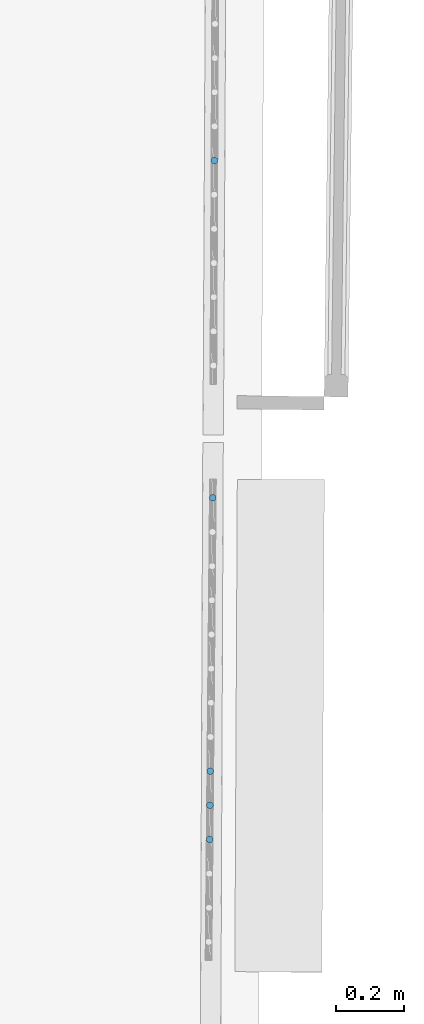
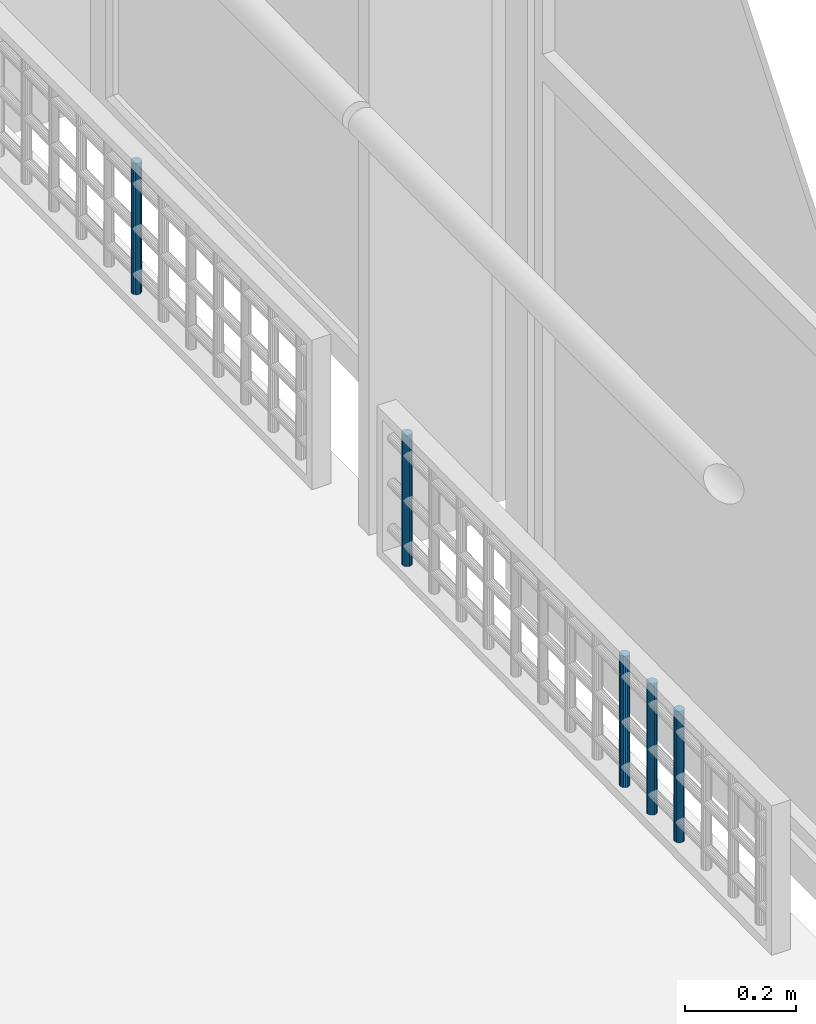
# One storey, part 28 of 66: 5 members, 2 elements without a shape of their own.
"""IFC2X3 building model written with IfcOpenShell, lengths in centimetres."""

from ifc_helpers import new_model, entity, si_unit, converted_unit, direction, frame, origin, origin_with_axes, place, context, subcontext, project, spatial, faceted_brep, material, type_object, element, aggregate, save


model = new_model("IFC2X3")

# Units and contexts
model_context = context("Model", 3, precision=0.0001, world=origin(), true_north=direction((0.225632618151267, 0.974212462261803, 0.0)))
body_context = subcontext(model_context, "Body", "Model", "MODEL_VIEW")
ifc_project = project(units=[si_unit("LENGTHUNIT", "METRE", prefix="CENTI"), si_unit("AREAUNIT", "SQUARE_METRE", prefix="CENTI"), si_unit("VOLUMEUNIT", "CUBIC_METRE", prefix="CENTI"), converted_unit("PLANEANGLEUNIT", "DEGREE", entity("IfcRatioMeasure", 0.0174532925), si_unit("PLANEANGLEUNIT", "RADIAN"), dimensions=[0, 0, 0, 0, 0, 0, 0])], contexts=[model_context])

# Site, building, storey
site_placement = place(None, origin_with_axes())
site = spatial("IfcSite", under=ifc_project, at=site_placement, Name="Default Site", CompositionType="ELEMENT")
building_placement = place(site_placement, origin_with_axes())
building = spatial("IfcBuilding", under=site, at=building_placement, Name="Default Building", CompositionType="ELEMENT")
storey_placement = place(building_placement, frame((0.0, 0.0, 477.795358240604), z_axis=(0.0, 0.0, 1.0), x_axis=(1.0, 0.0, 0.0)))
storey = spatial("IfcBuildingStorey", under=building, at=storey_placement, Name="Niveau 1", CompositionType="ELEMENT", Elevation=477.795358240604)

# Assembly, members
building_element_proxy_type = type_object("IfcBuildingElementProxyType", Name="Type Object", PredefinedType="NOTDEFINED")
assembly_1_placement = place(storey_placement, frame((1064.33713672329, -30.426748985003, 9.99999999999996), z_axis=(0.0, 0.0, 1.0), x_axis=(-0.00922380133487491, -0.999957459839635, 0.0)))
assembly_1 = element("IfcElementAssembly", 1, at=assembly_1_placement, inside=storey, type_object=building_element_proxy_type, Name="Panneau 1702026", ObjectType="Precast panel", PredefinedType="USERDEFINED")
ifc_material = material(Name="Aluminium satiné")
member_1_placement = place(assembly_1_placement, frame((8.43969285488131, 0.342020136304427, 31.0000002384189), z_axis=(0.0, 0.0, 1.0), x_axis=(0.500000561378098, -0.866025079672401, 0.0)))
member_1 = element("IfcMember", 2, at=member_1_placement, material=ifc_material, Name="4294967075", context=body_context, shape_type="Brep", body=[
    faceted_brep([(3.94823063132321e-13, -2.63677968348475e-13, -3.44169137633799e-13), (-0.347296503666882, -3.05311331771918e-13, -3.44169137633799e-13), (-0.673648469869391, -0.118782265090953, -3.44169137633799e-13), (-0.939693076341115, -0.342019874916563, -3.44169137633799e-13), (-1.11334134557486, -0.642787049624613, -3.44169137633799e-13), (-1.17364892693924, -0.984807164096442, -3.44169137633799e-13), (-1.11334184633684, -1.32682746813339, -3.44169137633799e-13), (-0.939693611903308, -1.6275946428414, -3.44169137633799e-13), (-0.673649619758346, -1.85083312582, -3.44169137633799e-13), (-0.347297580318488, -1.96961516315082, -3.44169137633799e-13), (-1.44918065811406e-06, -1.96961580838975, -3.44169137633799e-13), (0.326350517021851, -1.8508335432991, -3.44169137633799e-13), (0.592395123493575, -1.62759593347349, -3.44169137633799e-13), (0.766043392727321, -1.32682875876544, -3.44169137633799e-13), (0.826350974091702, -0.984808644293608, -3.44169137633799e-13), (0.766043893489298, -0.642788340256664, -3.44169137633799e-13), (0.592396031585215, -0.342020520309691, -3.44169137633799e-13), (0.326351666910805, -0.118782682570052, -3.44169137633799e-13), (0.326351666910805, -0.118782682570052, -29.0000002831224), (0.592396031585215, -0.342020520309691, -29.0000002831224), (0.766043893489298, -0.642788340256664, -29.0000002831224), (0.826350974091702, -0.984808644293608, -29.0000002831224), (0.766043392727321, -1.32682875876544, -29.0000002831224), (0.592395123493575, -1.62759593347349, -29.0000002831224), (0.326350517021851, -1.8508335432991, -29.0000002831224), (-1.44918065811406e-06, -1.96961580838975, -29.0000002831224), (-0.347297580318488, -1.96961516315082, -29.0000002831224), (-0.673649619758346, -1.85083312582, -29.0000002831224), (-0.939693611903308, -1.6275946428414, -29.0000002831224), (-1.11334184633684, -1.32682746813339, -29.0000002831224), (-1.17364892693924, -0.984807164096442, -29.0000002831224), (-1.11334134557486, -0.642787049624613, -29.0000002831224), (-0.939693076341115, -0.342019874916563, -29.0000002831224), (-0.673648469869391, -0.118782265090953, -29.0000002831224), (-0.347296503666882, -3.05311331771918e-13, -29.0000002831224), (3.94823063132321e-13, -2.63677968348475e-13, -29.0000002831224), (0.592395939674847, -0.342020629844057, -3.4416913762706e-13), (0.592395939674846, -0.342020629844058, -29.0000002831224), (0.326351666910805, -0.118782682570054, -29.0000002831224), (0.766044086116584, -0.642788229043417, -3.44169137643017e-13), (0.766044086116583, -0.642788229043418, -29.0000002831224), (0.592396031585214, -0.342020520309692, -29.0000002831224), (0.826351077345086, -0.984808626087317, -3.44169137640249e-13), (0.826351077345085, -0.984808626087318, -29.0000002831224), (0.766043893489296, -0.642788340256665, -29.0000002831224), (0.766043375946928, -1.32682875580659, -3.44169137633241e-13), (0.766043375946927, -1.32682875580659, -29.0000002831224), (0.326350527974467, -1.85083355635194, -3.44169137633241e-13), (0.326350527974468, -1.85083355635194, -29.0000002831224), (-1.48504011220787e-06, -1.9696157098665, -3.44169137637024e-13), (-1.48504011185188e-06, -1.9696157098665, -29.0000002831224), (-0.347297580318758, -1.96961558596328, -3.44169137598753e-13), (-0.347297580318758, -1.96961558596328, -29.0000002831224), (-0.673649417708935, -1.85083257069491, -3.4416913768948e-13), (-0.673649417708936, -1.85083257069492, -29.0000002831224), (-0.347297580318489, -1.96961516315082, -29.0000002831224), (-0.939693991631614, -1.62759509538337, -3.44169137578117e-13), (-0.939693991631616, -1.62759509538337, -29.0000002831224), (-0.673649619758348, -1.85083312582, -29.0000002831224), (-1.11334148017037, -1.3268272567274, -3.44169137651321e-13), (-1.11334148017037, -1.3268272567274, -29.0000002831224), (-0.939693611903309, -1.6275946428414, -29.0000002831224), (-1.17364903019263, -0.984807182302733, -3.44169137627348e-13), (-1.17364903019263, -0.984807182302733, -29.0000002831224), (-1.11334132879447, -0.64278705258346, -3.44169137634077e-13), (-1.11334132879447, -0.64278705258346, -29.0000002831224), (-0.939693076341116, -0.342019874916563, -3.44169137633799e-13), (-0.939693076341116, -0.342019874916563, -29.0000002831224), (-0.673648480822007, -0.118782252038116, -3.44169137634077e-13), (-0.673648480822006, -0.118782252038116, -29.0000002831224), (-0.939693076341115, -0.342019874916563, -29.0000002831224), (-0.347296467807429, -9.85235504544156e-08, -3.44169137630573e-13), (-0.347296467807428, -9.85235512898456e-08, -29.0000002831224), (2.52369430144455e-13, -2.22427011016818e-07, -3.4416913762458e-13), (2.52369429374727e-13, -2.2242701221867e-07, -29.0000002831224), (-0.347296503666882, -3.06513183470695e-13, -29.0000002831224), (0.326351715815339, -0.118782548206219, -3.44169137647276e-13), (0.326351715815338, -0.118782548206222, -29.0000002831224), (3.93888186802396e-13, -2.66246514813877e-13, -29.0000002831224)], [[[0, 1, 2, 3, 4, 5, 6, 7, 8, 9, 10, 11, 12, 13, 14, 15, 16, 17]], [[18, 19, 20, 21, 22, 23, 24, 25, 26, 27, 28, 29, 30, 31, 32, 33, 34, 35]], [[17, 36, 37, 38]], [[16, 39, 40, 41]], [[15, 42, 43, 44]], [[14, 45, 46, 21]], [[13, 12, 23, 22]], [[12, 47, 48, 23]], [[11, 49, 50, 24]], [[10, 51, 52, 25]], [[9, 53, 54, 55]], [[8, 56, 57, 58]], [[7, 59, 60, 61]], [[6, 62, 63, 29]], [[5, 64, 65, 30]], [[4, 66, 67, 31]], [[3, 68, 69, 70]], [[2, 71, 72, 33]], [[1, 73, 74, 75]], [[0, 76, 77, 78]]]),
])
member_2_placement = place(assembly_1_placement, frame((88.439691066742, 0.342020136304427, 31.0000002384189), z_axis=(0.0, 0.0, 1.0), x_axis=(0.499995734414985, -0.866027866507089, 0.0)))
member_2 = element("IfcMember", 3, at=member_2_placement, material=ifc_material, Name="4294967067", context=body_context, shape_type="Brep", body=[
    faceted_brep([(5.88418203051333e-13, -4.10782519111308e-13, -2.55351295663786e-13), (-0.34729538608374, -3.88578058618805e-13, -2.55351295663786e-13), (-0.673647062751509, -0.118784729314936, -2.55351295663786e-13), (-0.939691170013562, -0.342025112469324, -2.55351295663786e-13), (-1.11333590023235, -0.642790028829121, -2.55351295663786e-13), (-1.1736423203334, -0.984811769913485, -2.55351295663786e-13), (-1.11333370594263, -1.32683238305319, -2.55351295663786e-13), (-0.939683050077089, -1.62759729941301, -2.55351295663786e-13), (-0.673637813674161, -1.8508342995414, -2.55351295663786e-13), (-0.347285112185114, -1.96961451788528, -2.55351295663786e-13), (1.02738992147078e-05, -1.9696145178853, -2.55351295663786e-13), (0.326361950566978, -1.85082978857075, -2.55351295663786e-13), (0.592406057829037, -1.62758940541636, -2.55351295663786e-13), (0.766050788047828, -1.32682448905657, -2.55351295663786e-13), (0.82635720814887, -0.984802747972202, -2.55351295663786e-13), (0.766048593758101, -0.642782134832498, -2.55351295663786e-13), (0.592397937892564, -0.342017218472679, -2.55351295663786e-13), (0.326352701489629, -0.118780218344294, -2.55351295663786e-13), (0.326352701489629, -0.118780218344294, -29.0000002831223), (0.592397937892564, -0.342017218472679, -29.0000002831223), (0.766048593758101, -0.642782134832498, -29.0000002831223), (0.82635720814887, -0.984802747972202, -29.0000002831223), (0.766050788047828, -1.32682448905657, -29.0000002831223), (0.592406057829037, -1.62758940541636, -29.0000002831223), (0.326361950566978, -1.85082978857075, -29.0000002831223), (1.02738992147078e-05, -1.9696145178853, -29.0000002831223), (-0.347285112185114, -1.96961451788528, -29.0000002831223), (-0.673637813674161, -1.8508342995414, -29.0000002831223), (-0.939683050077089, -1.62759729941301, -29.0000002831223), (-1.11333370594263, -1.32683238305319, -29.0000002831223), (-1.1736423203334, -0.984811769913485, -29.0000002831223), (-1.11333590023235, -0.642790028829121, -29.0000002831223), (-0.939691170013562, -0.342025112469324, -29.0000002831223), (-0.673647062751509, -0.118784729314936, -29.0000002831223), (-0.34729538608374, -3.88578058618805e-13, -29.0000002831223), (5.88418203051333e-13, -4.10782519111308e-13, -29.0000002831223), (0.592398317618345, -0.342016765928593, -2.55351295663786e-13), (0.592398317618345, -0.342016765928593, -29.0000002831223), (0.7660471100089, -0.642782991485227, -2.55351295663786e-13), (0.7660471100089, -0.642782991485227, -29.0000002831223), (0.826357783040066, -0.98480264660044, -2.55351295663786e-13), (0.826357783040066, -0.98480264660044, -29.0000002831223), (0.76605127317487, -1.32682457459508, -2.55351295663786e-13), (0.76605127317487, -1.32682457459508, -29.0000002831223), (0.592406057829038, -1.62758940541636, -2.55351295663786e-13), (0.592406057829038, -1.62758940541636, -29.0000002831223), (0.326361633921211, -1.85082941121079, -2.55351295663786e-13), (0.326361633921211, -1.85082941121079, -29.0000002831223), (1.00742387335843e-05, -1.969613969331, -2.55351295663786e-13), (1.00742387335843e-05, -1.969613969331, -29.0000002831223), (-0.347285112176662, -1.96961623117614, -2.55351295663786e-13), (-0.347285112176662, -1.96961623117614, -29.0000002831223), (-0.673637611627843, -1.85083374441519, -2.55351295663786e-13), (-0.673637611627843, -1.85083374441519, -29.0000002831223), (-0.939683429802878, -1.6275977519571, -2.55351295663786e-13), (-0.939683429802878, -1.6275977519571, -29.0000002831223), (-1.11333222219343, -1.32683152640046, -2.55351295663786e-13), (-1.11333222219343, -1.32683152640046, -29.0000002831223), (-1.17364289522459, -0.984811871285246, -2.55351295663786e-13), (-1.17364289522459, -0.984811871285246, -29.0000002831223), (-1.1133363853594, -0.642789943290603, -2.55351295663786e-13), (-1.1133363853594, -0.642789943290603, -29.0000002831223), (-0.939691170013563, -0.342025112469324, -2.55351295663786e-13), (-0.939691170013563, -0.342025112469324, -29.0000002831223), (-0.67364674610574, -0.118785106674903, -2.55351295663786e-13), (-0.67364674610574, -0.118785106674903, -29.0000002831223), (-0.34729518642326, -5.48554682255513e-07, -2.55351295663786e-13), (-0.34729518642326, -5.48554682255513e-07, -29.0000002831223), (-7.86365358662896e-12, 1.71329044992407e-06, -2.55351295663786e-13), (-7.86365358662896e-12, 1.71329044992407e-06, -29.0000002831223), (0.326352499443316, -0.118780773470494, -2.55351295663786e-13), (0.326352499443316, -0.118780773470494, -29.0000002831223)], [[[0, 1, 2, 3, 4, 5, 6, 7, 8, 9, 10, 11, 12, 13, 14, 15, 16, 17]], [[18, 19, 20, 21, 22, 23, 24, 25, 26, 27, 28, 29, 30, 31, 32, 33, 34, 35]], [[17, 36, 37, 18]], [[16, 38, 39, 19]], [[15, 40, 41, 20]], [[14, 42, 43, 21]], [[13, 44, 45, 22]], [[12, 46, 47, 23]], [[11, 48, 49, 24]], [[10, 50, 51, 25]], [[9, 52, 53, 26]], [[8, 54, 55, 27]], [[7, 56, 57, 28]], [[6, 58, 59, 29]], [[5, 60, 61, 30]], [[4, 62, 63, 31]], [[3, 64, 65, 32]], [[2, 66, 67, 33]], [[1, 68, 69, 34]], [[0, 70, 71, 35]]]),
])
member_3_placement = place(assembly_1_placement, frame((98.4396934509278, 0.342020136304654, 31.0000002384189), z_axis=(0.0, 0.0, 1.0), x_axis=(0.499995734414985, -0.866027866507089, 0.0)))
member_3 = element("IfcMember", 4, at=member_3_placement, material=ifc_material, Name="4294967066", context=body_context, shape_type="Brep", body=[
    faceted_brep([(6.16173778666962e-13, -3.88578058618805e-13, -2.55351295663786e-13), (-0.347295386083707, -3.66373598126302e-13, -2.55351295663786e-13), (-0.673647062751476, -0.118784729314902, -2.55351295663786e-13), (-0.939691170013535, -0.342025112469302, -2.55351295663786e-13), (-1.11333888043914, -0.642795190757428, -2.55351295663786e-13), (-1.17364232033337, -0.984811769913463, -2.55351295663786e-13), (-1.1133337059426, -1.32683238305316, -2.55351295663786e-13), (-0.939686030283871, -1.62760246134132, -2.55351295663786e-13), (-0.673640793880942, -1.8508394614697, -2.55351295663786e-13), (-0.347288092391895, -1.96961967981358, -2.55351295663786e-13), (1.02738992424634e-05, -1.96961451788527, -2.55351295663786e-13), (0.326361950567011, -1.85082978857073, -2.55351295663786e-13), (0.592403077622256, -1.62759456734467, -2.55351295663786e-13), (0.766050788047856, -1.32682448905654, -2.55351295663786e-13), (0.826357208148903, -0.984802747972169, -2.55351295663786e-13), (0.766048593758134, -0.642782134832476, -2.55351295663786e-13), (0.592397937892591, -0.342017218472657, -2.55351295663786e-13), (0.326352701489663, -0.118780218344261, -2.55351295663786e-13), (0.326352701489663, -0.118780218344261, -29.0000002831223), (0.592397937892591, -0.342017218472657, -29.0000002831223), (0.766048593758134, -0.642782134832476, -29.0000002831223), (0.826357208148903, -0.984802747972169, -29.0000002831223), (0.766050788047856, -1.32682448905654, -29.0000002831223), (0.592403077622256, -1.62759456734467, -29.0000002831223), (0.326361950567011, -1.85082978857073, -29.0000002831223), (1.02738992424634e-05, -1.96961451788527, -29.0000002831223), (-0.347288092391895, -1.96961967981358, -29.0000002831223), (-0.673640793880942, -1.8508394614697, -29.0000002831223), (-0.939686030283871, -1.62760246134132, -29.0000002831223), (-1.1133337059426, -1.32683238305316, -29.0000002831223), (-1.17364232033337, -0.984811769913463, -29.0000002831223), (-1.11333888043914, -0.642795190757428, -29.0000002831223), (-0.939691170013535, -0.342025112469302, -29.0000002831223), (-0.673647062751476, -0.118784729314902, -29.0000002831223), (-0.347295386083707, -3.66373598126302e-13, -29.0000002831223), (6.16173778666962e-13, -3.88578058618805e-13, -29.0000002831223), (0.59239831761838, -0.342016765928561, -2.55351295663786e-13), (0.59239831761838, -0.342016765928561, -29.0000002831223), (0.766047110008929, -0.642782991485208, -2.55351295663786e-13), (0.766047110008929, -0.642782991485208, -29.0000002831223), (0.826357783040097, -0.984802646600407, -2.55351295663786e-13), (0.826357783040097, -0.984802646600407, -29.0000002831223), (0.766051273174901, -1.32682457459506, -2.55351295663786e-13), (0.766051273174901, -1.32682457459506, -29.0000002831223), (0.32636294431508, -1.85083097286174, -2.55351295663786e-13), (0.32636294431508, -1.85083097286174, -29.0000002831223), (1.00742387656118e-05, -1.96961396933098, -2.55351295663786e-13), (1.00742387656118e-05, -1.96961396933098, -29.0000002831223), (-0.347288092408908, -1.96961623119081, -2.55351295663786e-13), (-0.347288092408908, -1.96961623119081, -29.0000002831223), (-0.673640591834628, -1.8508389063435, -2.55351295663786e-13), (-0.673640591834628, -1.8508389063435, -29.0000002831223), (-0.939686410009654, -1.6276029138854, -2.55351295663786e-13), (-0.939686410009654, -1.6276029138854, -29.0000002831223), (-1.11333669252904, -1.32683410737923, -2.55351295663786e-13), (-1.11333669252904, -1.32683410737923, -29.0000002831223), (-1.17364289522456, -0.984811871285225, -2.55351295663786e-13), (-1.17364289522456, -0.984811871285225, -29.0000002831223), (-1.11333735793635, -0.642795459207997, -2.55351295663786e-13), (-1.11333735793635, -0.642795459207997, -29.0000002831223), (-0.939691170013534, -0.342025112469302, -2.55351295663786e-13), (-0.939691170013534, -0.342025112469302, -29.0000002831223), (-0.673646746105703, -0.118785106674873, -2.55351295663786e-13), (-0.673646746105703, -0.118785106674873, -29.0000002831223), (-0.34729518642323, -5.48554650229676e-07, -2.55351295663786e-13), (-0.34729518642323, -5.48554650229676e-07, -29.0000002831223), (-7.83589801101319e-12, 1.71329047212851e-06, -2.55351295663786e-13), (-7.83589801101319e-12, 1.71329047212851e-06, -29.0000002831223), (0.326352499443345, -0.118780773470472, -2.55351295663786e-13), (0.326352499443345, -0.118780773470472, -29.0000002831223)], [[[0, 1, 2, 3, 4, 5, 6, 7, 8, 9, 10, 11, 12, 13, 14, 15, 16, 17]], [[18, 19, 20, 21, 22, 23, 24, 25, 26, 27, 28, 29, 30, 31, 32, 33, 34, 35]], [[17, 36, 37, 18]], [[16, 38, 39, 19]], [[15, 40, 41, 20]], [[14, 42, 43, 21]], [[13, 12, 23, 22]], [[12, 44, 45, 23]], [[11, 46, 47, 24]], [[10, 48, 49, 25]], [[9, 50, 51, 26]], [[8, 52, 53, 27]], [[7, 54, 55, 28]], [[6, 56, 57, 29]], [[5, 58, 59, 30]], [[4, 60, 61, 31]], [[3, 62, 63, 32]], [[2, 64, 65, 33]], [[1, 66, 67, 34]], [[0, 68, 69, 35]]]),
])
member_4_placement = place(assembly_1_placement, frame((108.439695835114, 0.342020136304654, 31.0000002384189), z_axis=(0.0, 0.0, 1.0), x_axis=(0.500008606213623, -0.86602043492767, 0.0)))
member_4 = element("IfcMember", 5, at=member_4_placement, material=ifc_material, Name="4294967065", context=body_context, shape_type="Brep", body=[
    faceted_brep([(6.88338275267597e-13, -5.77315972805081e-13, -2.72004641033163e-13), (-0.347298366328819, -4.9960036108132e-13, -2.72004641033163e-13), (-0.673648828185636, -0.118774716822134, -2.72004641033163e-13), (-0.939699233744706, -0.342016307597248, -2.72004641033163e-13), (-1.11334843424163, -0.642778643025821, -2.72004641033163e-13), (-1.17365695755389, -0.984794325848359, -2.72004641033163e-13), (-1.11335640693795, -1.32682099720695, -2.72004641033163e-13), (-0.939713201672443, -1.62759365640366, -2.72004641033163e-13), (-0.673665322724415, -1.85082428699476, -2.72004641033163e-13), (-0.347320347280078, -1.96961967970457, -2.72004641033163e-13), (-2.19809505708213e-05, -1.96961967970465, -2.72004641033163e-13), (0.326334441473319, -1.85083463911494, -2.72004641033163e-13), (0.592378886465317, -1.6276033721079, -2.72004641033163e-13), (0.766028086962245, -1.32684103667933, -2.72004641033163e-13), (0.826342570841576, -0.984815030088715, -2.72004641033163e-13), (0.766036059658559, -0.642798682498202, -2.72004641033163e-13), (0.592392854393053, -0.342026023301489, -2.72004641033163e-13), (0.326350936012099, -0.118785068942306, -2.72004641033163e-13), (0.326350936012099, -0.118785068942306, -29.0000002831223), (0.592392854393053, -0.342026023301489, -29.0000002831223), (0.766036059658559, -0.642798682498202, -29.0000002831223), (0.826342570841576, -0.984815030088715, -29.0000002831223), (0.766028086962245, -1.32684103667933, -29.0000002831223), (0.592378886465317, -1.6276033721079, -29.0000002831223), (0.326334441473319, -1.85083463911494, -29.0000002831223), (-2.19809505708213e-05, -1.96961967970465, -29.0000002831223), (-0.347320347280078, -1.96961967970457, -29.0000002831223), (-0.673665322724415, -1.85082428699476, -29.0000002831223), (-0.939713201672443, -1.62759365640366, -29.0000002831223), (-1.11335640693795, -1.32682099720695, -29.0000002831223), (-1.17365695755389, -0.984794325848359, -29.0000002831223), (-1.11334843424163, -0.642778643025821, -29.0000002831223), (-0.939699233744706, -0.342016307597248, -29.0000002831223), (-0.673648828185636, -0.118774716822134, -29.0000002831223), (-0.347298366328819, -4.9960036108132e-13, -29.0000002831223), (6.88338275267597e-13, -5.77315972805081e-13, -29.0000002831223), (0.592393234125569, -0.342025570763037, -2.72004641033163e-13), (0.592393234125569, -0.342025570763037, -29.0000002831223), (0.766039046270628, -0.642796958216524, -2.72004641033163e-13), (0.766039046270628, -0.642796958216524, -29.0000002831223), (0.826339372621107, -0.984815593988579, -2.72004641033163e-13), (0.826339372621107, -0.984815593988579, -29.0000002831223), (0.766030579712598, -1.32684147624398, -2.72004641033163e-13), (0.766030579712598, -1.32684147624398, -29.0000002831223), (0.592378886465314, -1.6276033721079, -2.72004641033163e-13), (0.592378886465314, -1.6276033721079, -29.0000002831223), (0.32633543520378, -1.85083582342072, -2.72004641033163e-13), (0.32633543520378, -1.85083582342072, -29.0000002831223), (-2.34909531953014e-05, -1.96961553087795, -2.72004641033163e-13), (-2.34909531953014e-05, -1.96961553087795, -29.0000002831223), (-0.347320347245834, -1.96961623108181, -2.72004641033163e-13), (-0.347320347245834, -1.96961623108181, -29.0000002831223), (-0.673669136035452, -1.85083476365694, -2.72004641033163e-13), (-0.673669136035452, -1.85083476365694, -29.0000002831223), (-0.939706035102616, -1.62758511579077, -2.72004641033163e-13), (-0.939706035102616, -1.62758511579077, -29.0000002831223), (-1.11335939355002, -1.32682272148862, -2.72004641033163e-13), (-1.11335939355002, -1.32682272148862, -29.0000002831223), (-1.17366130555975, -0.984795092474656, -2.72004641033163e-13), (-1.17366130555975, -0.984795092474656, -29.0000002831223), (-1.11334691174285, -0.642778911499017, -2.72004641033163e-13), (-1.11334691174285, -0.642778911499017, -29.0000002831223), (-0.939699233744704, -0.34201630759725, -2.72004641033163e-13), (-0.939699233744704, -0.34201630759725, -29.0000002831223), (-0.673647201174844, -0.118776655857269, -2.72004641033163e-13), (-0.673647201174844, -0.118776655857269, -29.0000002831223), (-0.34729947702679, 3.05171167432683e-06, -2.72004641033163e-13), (-0.34729947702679, 3.05171167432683e-06, -29.0000002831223), (-3.35559898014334e-11, -3.4486233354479e-06, -2.72004641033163e-13), (-3.35559898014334e-11, -3.4486233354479e-06, -29.0000002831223), (0.326350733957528, -0.118785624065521, -2.72004641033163e-13), (0.326350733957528, -0.118785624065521, -29.0000002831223)], [[[0, 1, 2, 3, 4, 5, 6, 7, 8, 9, 10, 11, 12, 13, 14, 15, 16, 17]], [[18, 19, 20, 21, 22, 23, 24, 25, 26, 27, 28, 29, 30, 31, 32, 33, 34, 35]], [[17, 36, 37, 18]], [[16, 38, 39, 19]], [[15, 40, 41, 20]], [[14, 42, 43, 21]], [[13, 44, 45, 22]], [[12, 46, 47, 23]], [[11, 48, 49, 24]], [[10, 50, 51, 25]], [[9, 52, 53, 26]], [[8, 54, 55, 27]], [[7, 56, 57, 28]], [[6, 58, 59, 29]], [[5, 60, 61, 30]], [[4, 62, 63, 31]], [[3, 64, 65, 32]], [[2, 66, 67, 33]], [[1, 68, 69, 34]], [[0, 70, 71, 35]]]),
])
aggregate(assembly_1, [member_1, member_2, member_3, member_4])

# Assembly, member
assembly_2_placement = place(storey_placement, frame((1065.11691205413, 138.297750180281, 9.99999999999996), z_axis=(0.0, 0.0, 1.0), x_axis=(-0.00486371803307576, -0.999988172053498, 0.0)))
assembly_2 = element("IfcElementAssembly", 6, at=assembly_2_placement, inside=storey, type_object=building_element_proxy_type, Name="Panneau 1702029", ObjectType="Precast panel", PredefinedType="USERDEFINED")
member_5_placement = place(assembly_2_placement, frame((78.4396946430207, 0.342020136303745, 31.0000002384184), z_axis=(0.0, 0.0, 1.0), x_axis=(0.500008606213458, -0.866020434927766, 0.0)))
member_5 = element("IfcMember", 7, at=member_5_placement, material=ifc_material, Name="4294967050", context=body_context, shape_type="Brep", body=[
    faceted_brep([(-3.77475828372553e-13, 1.11022302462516e-13, -8.32667268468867e-14), (-0.347298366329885, 1.11022302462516e-13, -8.32667268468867e-14), (-0.673651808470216, -0.11877987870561, -8.32667268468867e-14), (-0.93969625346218, -0.342011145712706, -8.32667268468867e-14), (-1.11334843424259, -0.642778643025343, -8.32667268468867e-14), (-1.17365993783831, -0.984799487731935, -8.32667268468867e-14), (-1.11335640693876, -1.32682099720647, -8.32667268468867e-14), (-0.939710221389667, -1.62758849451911, -8.32667268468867e-14), (-0.673668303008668, -1.85082944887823, -8.32667268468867e-14), (-0.347317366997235, -1.96961451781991, -8.32667268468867e-14), (-2.19809512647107e-05, -1.96961967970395, -8.32667268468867e-14), (0.326331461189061, -1.85083980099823, -8.32667268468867e-14), (0.592378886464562, -1.62760337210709, -8.32667268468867e-14), (0.766031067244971, -1.32683587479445, -8.32667268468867e-14), (0.826339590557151, -0.984820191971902, -8.32667268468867e-14), (0.766036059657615, -0.64279868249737, -8.32667268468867e-14), (0.592392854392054, -0.34202602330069, -8.32667268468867e-14), (0.326350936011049, -0.118785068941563, -8.32667268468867e-14), (0.326350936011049, -0.118785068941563, -29.0000002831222), (0.592392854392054, -0.34202602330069, -29.0000002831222), (0.766036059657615, -0.64279868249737, -29.0000002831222), (0.826339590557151, -0.984820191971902, -29.0000002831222), (0.766031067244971, -1.32683587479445, -29.0000002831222), (0.592378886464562, -1.62760337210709, -29.0000002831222), (0.326331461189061, -1.85083980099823, -29.0000002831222), (-2.19809512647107e-05, -1.96961967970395, -29.0000002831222), (-0.347317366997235, -1.96961451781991, -29.0000002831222), (-0.673668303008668, -1.85082944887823, -29.0000002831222), (-0.939710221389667, -1.62758849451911, -29.0000002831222), (-1.11335640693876, -1.32682099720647, -29.0000002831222), (-1.17365993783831, -0.984799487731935, -29.0000002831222), (-1.11334843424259, -0.642778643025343, -29.0000002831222), (-0.93969625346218, -0.342011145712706, -29.0000002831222), (-0.673651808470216, -0.11877987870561, -29.0000002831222), (-0.347298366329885, 1.11022302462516e-13, -29.0000002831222), (-3.77475828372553e-13, 1.11022302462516e-13, -29.0000002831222), (0.592393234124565, -0.342025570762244, -8.32667268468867e-14), (0.592393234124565, -0.342025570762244, -29.0000002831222), (0.766039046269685, -0.642796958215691, -8.32667268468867e-14), (0.766039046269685, -0.642796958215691, -29.0000002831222), (0.826340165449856, -0.984820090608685, -8.32667268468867e-14), (0.826340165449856, -0.984820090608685, -29.0000002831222), (0.766029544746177, -1.32683560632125, -8.32667268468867e-14), (0.766029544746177, -1.32683560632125, -29.0000002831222), (0.592378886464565, -1.62760337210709, -8.32667268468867e-14), (0.592378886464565, -1.62760337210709, -29.0000002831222), (0.326331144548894, -1.85083942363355, -8.32667268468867e-14), (0.326331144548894, -1.85083942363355, -29.0000002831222), (-2.21806035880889e-05, -1.9696191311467, -8.32667268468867e-14), (-2.21806035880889e-05, -1.9696191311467, -29.0000002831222), (-0.347317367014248, -1.96961623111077, -8.32667268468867e-14), (-0.347317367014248, -1.96961623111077, -29.0000002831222), (-0.673668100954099, -1.85082889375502, -8.32667268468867e-14), (-0.673668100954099, -1.85082889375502, -29.0000002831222), (-0.93971060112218, -1.62758894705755, -8.32667268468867e-14), (-0.93971060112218, -1.62758894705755, -29.0000002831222), (-1.11335492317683, -1.32682014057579, -8.32667268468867e-14), (-1.11335492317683, -1.32682014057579, -29.0000002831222), (-1.17366051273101, -0.984799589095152, -8.32667268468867e-14), (-1.17366051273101, -0.984799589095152, -29.0000002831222), (-1.11334891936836, -0.642778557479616, -8.32667268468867e-14), (-1.11334891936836, -0.642778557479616, -29.0000002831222), (-0.939696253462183, -0.342011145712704, -8.32667268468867e-14), (-0.939696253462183, -0.342011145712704, -29.0000002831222), (-0.673652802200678, -0.118778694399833, -8.32667268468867e-14), (-0.673652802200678, -0.118778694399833, -29.0000002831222), (-0.347298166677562, -5.48557137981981e-07, -8.32667268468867e-14), (-0.347298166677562, -5.48557137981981e-07, -29.0000002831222), (-3.46218033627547e-11, -3.44862265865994e-06, -8.32667268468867e-14), (-3.46218033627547e-11, -3.44862265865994e-06, -29.0000002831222), (0.326350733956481, -0.11878562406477, -8.32667268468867e-14), (0.326350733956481, -0.11878562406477, -29.0000002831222)], [[[0, 1, 2, 3, 4, 5, 6, 7, 8, 9, 10, 11, 12, 13, 14, 15, 16, 17]], [[18, 19, 20, 21, 22, 23, 24, 25, 26, 27, 28, 29, 30, 31, 32, 33, 34, 35]], [[17, 36, 37, 18]], [[16, 38, 39, 19]], [[15, 40, 41, 20]], [[14, 42, 43, 21]], [[13, 44, 45, 22]], [[12, 46, 47, 23]], [[11, 48, 49, 24]], [[10, 50, 51, 25]], [[9, 52, 53, 26]], [[8, 54, 55, 27]], [[7, 56, 57, 28]], [[6, 58, 59, 29]], [[5, 60, 61, 30]], [[4, 62, 63, 31]], [[3, 64, 65, 32]], [[2, 66, 67, 33]], [[1, 68, 69, 34]], [[0, 70, 71, 35]]]),
])
aggregate(assembly_2, [member_5])

save(model, "model.ifc")
